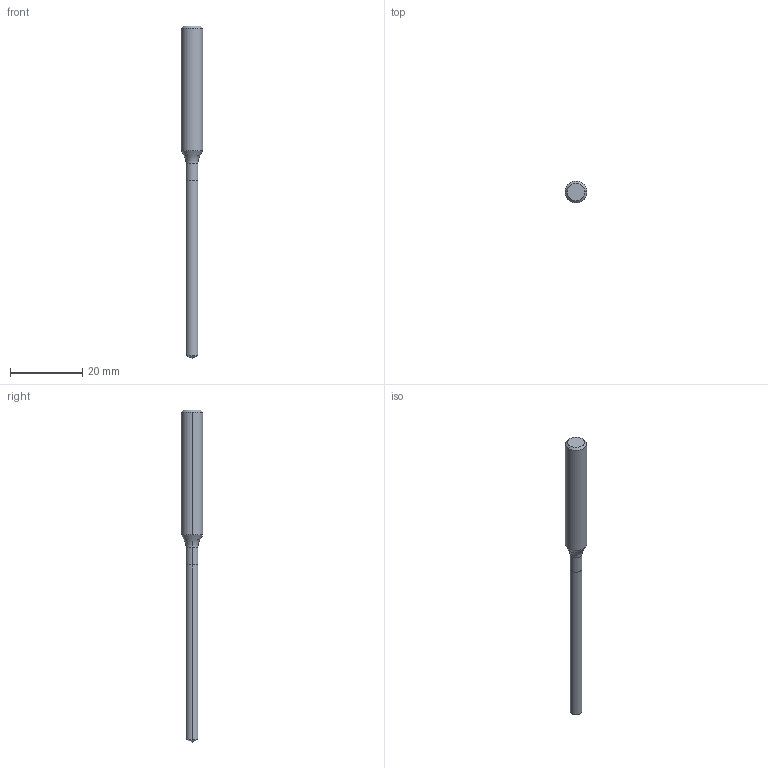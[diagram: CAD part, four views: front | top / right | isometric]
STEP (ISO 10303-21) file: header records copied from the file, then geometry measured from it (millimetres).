
FILE_DESCRIPTION (( 'STEP AP214' ), '1' );
FILE_NAME ('710.033.00_3D-model.step', '2022-02-22T04:34:33', ( '' ), ( '' ), 'SwSTEP 2.0', 'SolidWorks 2020', '' );
FILE_SCHEMA (( 'AUTOMOTIVE_DESIGN' ));
Length unit declared in the file: millimetre
Products named in the file (3): 710.033.00_3D-model; CUT-3D^Baugr141; NOCUT-3D^Baugr141
Assembly tree (2 placements, depth 2):
  710.033.00_3D-model
    CUT-3D^Baugr141
    NOCUT-3D^Baugr141
Bounding box: 6 x 6 x 92 mm (x, y, z)
Volume: 1483.9 mm3; surface area: 1302.9 mm2
Topology: 2 solids, 2 shells, 17 faces, 32 edges, 17 vertices
Faces by surface type: cone 6, cylinder 6, plane 3, torus 2
Entity records: 532 total; most frequent: DIRECTION 98, CARTESIAN_POINT 72, ORIENTED_EDGE 60, AXIS2_PLACEMENT_3D 43, EDGE_CURVE 30, CIRCLE 18, ADVANCED_FACE 17, FACE_OUTER_BOUND 17
